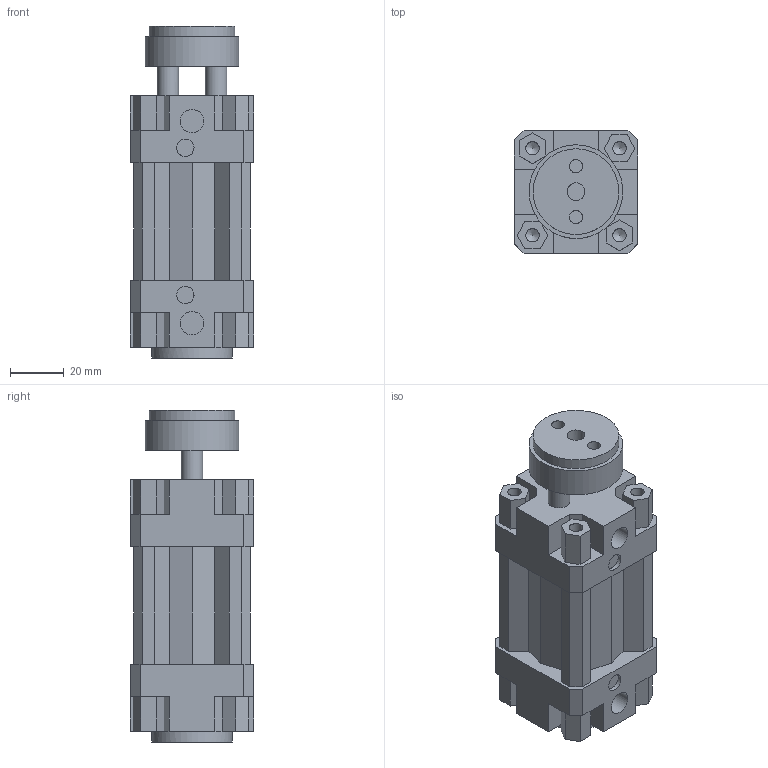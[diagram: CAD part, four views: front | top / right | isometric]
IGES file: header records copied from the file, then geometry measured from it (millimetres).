
Global section: file name: 132#_032_0000_01; native system: Autodesk Inventor 2014; preprocessor: unknown; author: A. Manieri; date: 20161006.154549; units: millimetre
Bounding box: 46 x 46 x 124 mm (x, y, z)
Volume: 169702.1 mm3; surface area: 48129.1 mm2
Topology: 2 solids, 2 shells, 187 faces, 507 edges, 343 vertices
Faces by surface type: bspline 187
